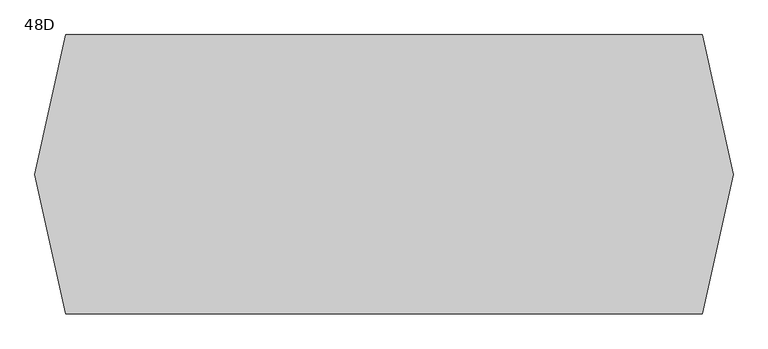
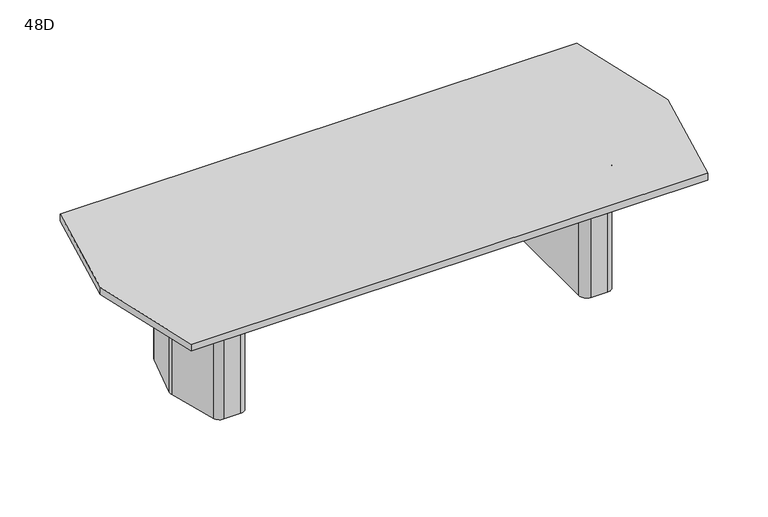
"""IFC4 building model written with IfcOpenShell, lengths in millimetres: furniture geometry, Coalesse_AM_Table_Conference_ETable2_Faceted_10ft_TwoBase : 48D."""

import ifcopenshell
import ifcopenshell.guid

model = None  # the IFC model being written
_history = None  # IfcOwnerHistory: only IFC2X3 demands one
_inside = {}  # id of a spatial element -> (the spatial element, [elements in it])
_under = {}  # id of a project, library or spatial element -> (it, [spatial elements below it])
_declared = {}  # id of a project -> (the project, [libraries it declares])
_typed = {}  # id of a type object -> (the type object, [elements of that type])
_made_of = {}  # id of a material, layer set ... -> (it, [elements and type objects made of it])


def new_model(schema):
    """Start an empty IFC model of exactly this schema.

    Asked for "IFC4X3", IfcOpenShell would pick the latest addendum, in which some entities
    have other attributes; the version numbers below select the first issue.
    IFC2X3 requires an IfcOwnerHistory on every rooted entity: one is made here for all.
    """
    global model, _history
    if schema == "IFC4X3":
        model = ifcopenshell.file(schema_version=(4, 3, 0, 0))
    else:
        model = ifcopenshell.file(schema=schema)
    _inside.clear()
    _under.clear()
    _declared.clear()
    _typed.clear()
    _made_of.clear()
    _history = None
    if model.schema == "IFC2X3":
        org = make("IfcOrganization", Name="unknown")
        user = make(
            "IfcPersonAndOrganization",
            ThePerson=make("IfcPerson", FamilyName="unknown"),
            TheOrganization=org,
        )
        app = make(
            "IfcApplication",
            ApplicationDeveloper=org,
            Version="unknown",
            ApplicationFullName="unknown",
            ApplicationIdentifier="unknown",
        )
        _history = make(
            "IfcOwnerHistory",
            OwningUser=user,
            OwningApplication=app,
            ChangeAction="ADDED",
            CreationDate=0,
        )
    return model


def make(cls, **values):
    """One entity of the class cls with the attributes given. An attribute that is None is left unset."""
    return model.create_entity(
        cls, **{name: value for name, value in values.items() if value is not None}
    )


def rooted(cls, **values):
    """An entity with a GlobalId (a new one), such as an element, a storey or a relation."""
    return make(cls, GlobalId=ifcopenshell.guid.new(), OwnerHistory=_history, **values)


def si_unit(unit_type, name, prefix=None):
    """IfcSIUnit, for example si_unit("LENGTHUNIT", "METRE", prefix="MILLI")."""
    return make("IfcSIUnit", UnitType=unit_type, Prefix=prefix, Name=name)


def assignment(units):
    """IfcUnitAssignment: the units of a project."""
    return None if units is None else make("IfcUnitAssignment", Units=units)


def point(xyz):
    """IfcCartesianPoint."""
    return None if xyz is None else make("IfcCartesianPoint", Coordinates=xyz)


def direction(xyz):
    """IfcDirection."""
    return None if xyz is None else make("IfcDirection", DirectionRatios=xyz)


def frame(location, z_axis=None, x_axis=None):
    """IfcAxis2Placement3D, a coordinate frame: its origin and axes. An axis left out is left unset."""
    return make(
        "IfcAxis2Placement3D",
        Location=point(location),
        Axis=direction(z_axis),
        RefDirection=direction(x_axis),
    )


def origin():
    """The frame at (0, 0, 0) with its axes left unset."""
    return frame((0.0, 0.0, 0.0))


def place(relative_to, where):
    """IfcLocalPlacement: puts the frame where relative to a parent placement (None: the world)."""
    return make(
        "IfcLocalPlacement", PlacementRelTo=relative_to, RelativePlacement=where
    )


def context(
    kind, dimensions, precision=None, world=None, true_north=None, identifier=None
):
    """IfcGeometricRepresentationContext, for example the 3D "Model" context."""
    return make(
        "IfcGeometricRepresentationContext",
        ContextIdentifier=identifier,
        ContextType=kind,
        CoordinateSpaceDimension=dimensions,
        Precision=precision,
        WorldCoordinateSystem=world,
        TrueNorth=true_north,
    )


def project(units=None, contexts=None):
    """IfcProject with its units and contexts."""
    return rooted(
        "IfcProject",
        Name="project",
        RepresentationContexts=contexts,
        UnitsInContext=assignment(units),
    )


def spatial(cls, under=None, at=None, **own):
    """A site, building, storey or space (cls), placed at a placement, below another one or the project."""
    s = rooted(cls, ObjectPlacement=at, **own)
    if under is not None:
        _under.setdefault(under.id(), (under, []))[1].append(s)
    return s


def polyline(points):
    """IfcPolyline through the points."""
    return make("IfcPolyline", Points=[point(p) for p in points])


def circle_curve(where, radius):
    """IfcCircle in the frame where."""
    return make("IfcCircle", Position=where, Radius=radius)


def outline(outer, holes=None, kind="AREA"):
    """IfcArbitraryClosedProfileDef: a profile drawn as a closed curve; with holes, ...WithVoids."""
    if holes is None:
        return make("IfcArbitraryClosedProfileDef", ProfileType=kind, OuterCurve=outer)
    return make(
        "IfcArbitraryProfileDefWithVoids",
        ProfileType=kind,
        OuterCurve=outer,
        InnerCurves=holes,
    )


def extrude(swept, where, along, depth):
    """IfcExtrudedAreaSolid: the profile swept, set in the frame where, extruded along a direction by depth."""
    return make(
        "IfcExtrudedAreaSolid",
        SweptArea=swept,
        Position=where,
        ExtrudedDirection=direction(along),
        Depth=depth,
    )


def shape(context_of_items, identifier, shape_type, items):
    """IfcShapeRepresentation: the items that make up one representation, for example the "Body"."""
    return make(
        "IfcShapeRepresentation",
        ContextOfItems=context_of_items,
        RepresentationIdentifier=identifier,
        RepresentationType=shape_type,
        Items=items,
    )


def source(mapping_origin, context_of_items, identifier, shape_type, items):
    """IfcRepresentationMap: a shape defined once, which mapped items show again and again."""
    return make(
        "IfcRepresentationMap",
        MappingOrigin=mapping_origin,
        MappedRepresentation=shape(context_of_items, identifier, shape_type, items),
    )


def transform(
    local_origin,
    x_axis=None,
    y_axis=None,
    z_axis=None,
    scale=None,
    scale2=None,
    scale3=None,
    uniform=True,
):
    """IfcCartesianTransformationOperator3D, or its non-uniform kind. x_axis, y_axis, z_axis: its Axis1, 2, 3."""
    if uniform:
        return make(
            "IfcCartesianTransformationOperator3D",
            Axis1=direction(x_axis),
            Axis2=direction(y_axis),
            LocalOrigin=point(local_origin),
            Scale=scale,
            Axis3=direction(z_axis),
        )
    return make(
        "IfcCartesianTransformationOperator3DnonUniform",
        Axis1=direction(x_axis),
        Axis2=direction(y_axis),
        LocalOrigin=point(local_origin),
        Scale=scale,
        Axis3=direction(z_axis),
        Scale2=scale2,
        Scale3=scale3,
    )


def mapped(mapping_source, mapping_target):
    """IfcMappedItem: shows the shape of a source again, moved by a transform."""
    return make(
        "IfcMappedItem", MappingSource=mapping_source, MappingTarget=mapping_target
    )


def made_of(thing, what):
    """Note that an element or type object is made of a material, layer set ...; save() writes the relation."""
    if what is not None:
        _made_of.setdefault(what.id(), (what, []))[1].append(thing)
    return thing


def element(
    cls,
    number,
    at=None,
    inside=None,
    cuts=None,
    type_object=None,
    material=None,
    context=None,
    identifier="Body",
    shape_type=None,
    held_by="IfcProductDefinitionShape",
    body=None,
    shapes=None,
    **own,
):
    """One element of the class cls, such as IfcWall. Its Tag is "e" and its number.

    at: its placement. inside: the storey or other place that contains it. cuts: it is an
    opening in that element (IfcRelVoidsElement). A single representation is given by context,
    identifier, shape_type and body (its items); several are given by shapes. held_by: the class
    of the entity that holds the representations. save() writes the other relations.
    """
    e = rooted(cls, Tag="e%d" % number, ObjectPlacement=at, **own)
    if body is not None:
        shapes = [shape(context, identifier, shape_type, body)]
    if shapes is not None:
        e.Representation = make(held_by, Representations=shapes)
    if inside is not None:
        _inside.setdefault(inside.id(), (inside, []))[1].append(e)
    if cuts is not None:
        rooted(
            "IfcRelVoidsElement", RelatingBuildingElement=cuts, RelatedOpeningElement=e
        )
    if type_object is not None:
        _typed.setdefault(type_object.id(), (type_object, []))[1].append(e)
    return made_of(e, material)


def aggregate(whole, parts):
    """IfcRelAggregates: a whole, such as a stair, and the parts it consists of."""
    return rooted("IfcRelAggregates", RelatingObject=whole, RelatedObjects=parts)


def save(model, path):
    """Write the relations noted so far, then the file.

    IfcRelAggregates (storeys below a building ...), IfcRelContainedInSpatialStructure (elements
    in a storey), IfcRelDefinesByType, IfcRelAssociatesMaterial and IfcRelDeclares: one each for
    every whole, place, type object, material and project.
    """
    for whole, parts in _under.values():
        aggregate(whole, parts)
    for where, things in _inside.values():
        rooted(
            "IfcRelContainedInSpatialStructure",
            RelatedElements=things,
            RelatingStructure=where,
        )
    for kind, things in _typed.values():
        rooted("IfcRelDefinesByType", RelatedObjects=things, RelatingType=kind)
    for what, things in _made_of.values():
        rooted("IfcRelAssociatesMaterial", RelatedObjects=things, RelatingMaterial=what)
    for by, libraries in _declared.values():
        rooted("IfcRelDeclares", RelatingContext=by, RelatedDefinitions=libraries)
    model.write(path)


def plane_surface(at):
    """IfcPlane: the flat surface through the origin of the frame at, square to its z axis."""
    return make("IfcPlane", Position=at)


def cylinder_surface(at, radius):
    """IfcCylindricalSurface: all points at the distance radius from the z axis of the frame at."""
    return make("IfcCylindricalSurface", Position=at, Radius=radius)


def revolved_surface(curve, axis_point, axis_direction):
    """IfcSurfaceOfRevolution: the curve turned about the line through axis_point along axis_direction."""
    return make(
        "IfcSurfaceOfRevolution",
        SweptCurve=make("IfcArbitraryOpenProfileDef", ProfileType="CURVE", Curve=curve),
        AxisPosition=make("IfcAxis1Placement", Location=point(axis_point), Axis=direction(axis_direction)),
    )


def advanced_brep(points, edges, surfaces, faces):
    """IfcAdvancedBrep: a solid bounded by faces that lie on surfaces and meet in shared edges.

    An edge is (start, end): straight between two places in points (the first is 0);
    or (start, end, curve); or (start, end, curve, False) where it runs against its curve.
    A face is (place in surfaces, loops), or (place, loops, False) where it looks against
    its surface's normal. A loop lists edges by number (the first is 1), with a minus sign
    where the edge is run from its end to its start. The first loop is the outer one.
    """
    corners = [point(p) for p in points]
    vertices = [make("IfcVertexPoint", VertexGeometry=c) for c in corners]
    made = []
    for start, end, *more in edges:
        made.append(
            make(
                "IfcEdgeCurve",
                EdgeStart=vertices[start],
                EdgeEnd=vertices[end],
                EdgeGeometry=more[0] if more else make("IfcPolyline", Points=[corners[start], corners[end]]),
                SameSense=more[1] if len(more) > 1 else True,
            )
        )
    hull = []
    for where, loops, *sense in faces:
        bounds = []
        for j, loop in enumerate(loops):
            ring = [make("IfcOrientedEdge", EdgeElement=made[abs(k) - 1], Orientation=k > 0) for k in loop]
            bounds.append(
                make(
                    "IfcFaceOuterBound" if j == 0 else "IfcFaceBound",
                    Bound=make("IfcEdgeLoop", EdgeList=ring),
                    Orientation=True,
                )
            )
        hull.append(make("IfcAdvancedFace", Bounds=bounds, FaceSurface=surfaces[where], SameSense=sense[0] if sense else True))
    return make("IfcAdvancedBrep", Outer=make("IfcClosedShell", CfsFaces=hull))


def furniture_48d_3833dcd1(model_context):
    return source(origin(), model_context, "Body", "SolidModel", [
        advanced_brep(
        [(1065.424548, 274.2093613, 698.5), (1025.5579246, 304.8, 698.5), (936.625, 304.8, 698.5), (895.35, 263.525, 698.5), (895.35, -263.525, 698.5), (936.625, -304.8, 698.5), (1025.5579246, -304.8, 698.5), (1065.424548, -274.2093613, 698.5), (1136.0503901, -10.6333708, 698.5), (1136.0503901, 10.6333708, 698.5), (933.45, -206.375, 698.5), (933.45, 206.375, 698.5), (958.85, 231.775, 698.5), (1017.8608422, 231.775, 698.5), (1042.395338, 212.9490792, 698.5), (1081.0875, 68.54974, 698.5), (1081.0875, -68.54974, 698.5), (1042.395338, -212.9490792, 698.5), (1017.8608422, -231.775, 698.5), (958.85, -231.775, 698.5), (1065.424548, 274.2093613, 3.175), (1136.0503901, 10.6333708, 3.175), (1136.0503901, -10.6333708, 3.175), (1065.424548, -274.2093613, 3.175), (1025.5579246, -304.8, 3.175), (936.625, -304.8, 3.175), (895.35, -263.525, 3.175), (895.35, 263.525, 3.175), (936.625, 304.8, 3.175), (1025.5579246, 304.8, 3.175), (1054.6625859, 216.2361187, 3.175), (1017.8608422, 244.475, 3.175), (958.85, 244.475, 3.175), (920.75, 206.375, 3.175), (920.75, -206.375, 3.175), (958.85, -244.475, 3.175), (1017.8608422, -244.475, 3.175), (1054.6625859, -216.2361187, 3.175), (1093.7875, -70.2217466, 3.175), (1093.7875, 70.2217466, 3.175), (958.85, -231.775, 3.175), (933.45, -206.375, 3.175), (1017.8608422, -231.775, 3.175), (1042.395338, -212.9490792, 3.175), (1081.0875, -68.54974, 3.175), (1081.0875, 68.54974, 3.175), (1042.395338, 212.9490792, 3.175), (1017.8608422, 231.775, 3.175), (958.85, 231.775, 3.175), (933.45, 206.375, 3.175), (1054.6625859, 216.2361187, 0.0), (1093.7875, 70.2217466, 0.0), (1093.7875, -70.2217466, 0.0), (1054.6625859, -216.2361187, 0.0), (1017.8608422, -244.475, 0.0), (958.85, -244.475, 0.0), (920.75, -206.375, 0.0), (920.75, 206.375, 0.0), (958.85, 244.475, 0.0), (1017.8608422, 244.475, 0.0)],
        [
            (0, 1, circle_curve(frame((1025.5579246, 263.5270004, 698.5), z_axis=(0.0, 0.0, 1.0), x_axis=(-1.0, 0.0, 0.0)), 41.2729996)),
            (1, 2),
            (2, 3, circle_curve(frame((936.625, 263.525, 698.5), z_axis=(0.0, 0.0, 1.0), x_axis=(-1.0, 0.0, 0.0)), 41.275)),
            (3, 4),
            (4, 5, circle_curve(frame((936.625, -263.525, 698.5), z_axis=(0.0, 0.0, 1.0), x_axis=(-1.0, 0.0, 0.0)), 41.275)),
            (5, 6),
            (6, 7, circle_curve(frame((1025.5579246, -263.5270004, 698.5), z_axis=(0.0, 0.0, 1.0), x_axis=(-1.0, 0.0, 0.0)), 41.2729996)),
            (7, 8),
            (8, 9, circle_curve(frame((1096.3665979, 0.0, 698.5), z_axis=(0.0, 0.0, 1.0), x_axis=(-1.0, 0.0, 0.0)), 41.0837187)),
            (9, 0),
            (10, 11),
            (11, 12, circle_curve(frame((958.85, 206.375, 698.5), z_axis=(0.0, 0.0, -1.0), x_axis=(-1.0, 0.0, 0.0)), 25.4)),
            (12, 13),
            (13, 14, circle_curve(frame((1017.8608422, 206.375, 698.5), z_axis=(0.0, 0.0, -1.0), x_axis=(-1.0, 0.0, 0.0)), 25.4)),
            (14, 15),
            (15, 16),
            (16, 17),
            (17, 18, circle_curve(frame((1017.8608422, -206.375, 698.5), z_axis=(0.0, 0.0, -1.0), x_axis=(-1.0, 0.0, 0.0)), 25.4)),
            (18, 19),
            (19, 10, circle_curve(frame((958.85, -206.375, 698.5), z_axis=(0.0, 0.0, -1.0), x_axis=(-1.0, 0.0, 0.0)), 25.4)),
            (20, 21),
            (21, 22, circle_curve(frame((1096.3665979, 0.0, 3.175), z_axis=(0.0, 0.0, -1.0), x_axis=(-1.0, 0.0, 0.0)), 41.0837187)),
            (22, 23),
            (23, 24, circle_curve(frame((1025.5579246, -263.5270004, 3.175), z_axis=(0.0, 0.0, -1.0), x_axis=(-1.0, 0.0, 0.0)), 41.2729996)),
            (24, 25),
            (25, 26, circle_curve(frame((936.625, -263.525, 3.175), z_axis=(0.0, 0.0, -1.0), x_axis=(-1.0, 0.0, 0.0)), 41.275)),
            (26, 27),
            (27, 28, circle_curve(frame((936.625, 263.525, 3.175), z_axis=(0.0, 0.0, -1.0), x_axis=(-1.0, 0.0, 0.0)), 41.275)),
            (28, 29),
            (29, 20, circle_curve(frame((1025.5579246, 263.5270004, 3.175), z_axis=(0.0, 0.0, -1.0), x_axis=(-1.0, 0.0, 0.0)), 41.2729996)),
            (30, 31, circle_curve(frame((1017.8608422, 206.375, 3.175), z_axis=(0.0, 0.0, 1.0), x_axis=(-1.0, 0.0, 0.0)), 38.1)),
            (31, 32),
            (32, 33, circle_curve(frame((958.85, 206.375, 3.175), z_axis=(0.0, 0.0, 1.0), x_axis=(-1.0, 0.0, 0.0)), 38.1)),
            (33, 34),
            (34, 35, circle_curve(frame((958.85, -206.375, 3.175), z_axis=(0.0, 0.0, 1.0), x_axis=(-1.0, 0.0, 0.0)), 38.1)),
            (35, 36),
            (36, 37, circle_curve(frame((1017.8608422, -206.375, 3.175), z_axis=(0.0, 0.0, 1.0), x_axis=(-1.0, 0.0, 0.0)), 38.1)),
            (37, 38),
            (38, 39),
            (39, 30),
            (9, 21),
            (20, 0),
            (8, 22),
            (7, 23),
            (6, 24),
            (5, 25),
            (4, 26),
            (3, 27),
            (2, 28),
            (1, 29),
            (19, 40),
            (40, 41, circle_curve(frame((958.85, -206.375, 3.175), z_axis=(0.0, 0.0, -1.0), x_axis=(-1.0, 0.0, 0.0)), 25.4)),
            (41, 10),
            (18, 42),
            (42, 40),
            (17, 43),
            (43, 42, circle_curve(frame((1017.8608422, -206.375, 3.175), z_axis=(0.0, 0.0, -1.0), x_axis=(-1.0, 0.0, 0.0)), 25.4)),
            (16, 44),
            (44, 43),
            (15, 45),
            (45, 44),
            (14, 46),
            (46, 45),
            (13, 47),
            (47, 46, circle_curve(frame((1017.8608422, 206.375, 3.175), z_axis=(0.0, 0.0, -1.0), x_axis=(-1.0, 0.0, 0.0)), 25.4)),
            (12, 48),
            (48, 47),
            (11, 49),
            (49, 48, circle_curve(frame((958.85, 206.375, 3.175), z_axis=(0.0, 0.0, -1.0), x_axis=(-1.0, 0.0, 0.0)), 25.4)),
            (41, 49),
            (50, 51),
            (51, 52),
            (52, 53),
            (53, 54, circle_curve(frame((1017.8608422, -206.375, 0.0), z_axis=(0.0, 0.0, -1.0), x_axis=(-1.0, 0.0, 0.0)), 38.1)),
            (54, 55),
            (55, 56, circle_curve(frame((958.85, -206.375, 0.0), z_axis=(0.0, 0.0, -1.0), x_axis=(-1.0, 0.0, 0.0)), 38.1)),
            (56, 57),
            (57, 58, circle_curve(frame((958.85, 206.375, 0.0), z_axis=(0.0, 0.0, -1.0), x_axis=(-1.0, 0.0, 0.0)), 38.1)),
            (58, 59),
            (59, 50, circle_curve(frame((1017.8608422, 206.375, 0.0), z_axis=(0.0, 0.0, -1.0), x_axis=(-1.0, 0.0, 0.0)), 38.1)),
            (50, 30),
            (39, 51),
            (38, 52),
            (37, 53),
            (36, 54),
            (35, 55),
            (34, 56),
            (33, 57),
            (32, 58),
            (31, 59),
        ],
        [
            plane_surface(frame((1136.0374275, 10.6817473, 698.5), z_axis=(0.0, 0.0, 1.0000000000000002), x_axis=(0.25882201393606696, -0.9659250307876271, 0.0))),
            plane_surface(frame((1136.0374275, 10.6817473, 3.175), z_axis=(0.0, 0.0, -1.0000000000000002), x_axis=(-0.25882201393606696, 0.9659250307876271, 0.0))),
            plane_surface(frame((1065.424548, 274.2093613, 698.5), z_axis=(0.9659250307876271, 0.25882201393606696, 0.0), x_axis=(0.0, 0.0, -1.0))),
            cylinder_surface(frame((1096.3665979, 0.0, 3.175), z_axis=(0.0, 0.0, 1.0), x_axis=(-1.0, 0.0, 0.0)), 41.0837187),
            plane_surface(frame((1136.0503901, -10.6333708, 698.5), z_axis=(0.9659250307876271, -0.2588220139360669, 0.0), x_axis=(0.0, 0.0, -1.0))),
            cylinder_surface(frame((1025.5579246, -263.5270004, 3.175), z_axis=(0.0, 0.0, 1.0), x_axis=(-1.0, 0.0, 0.0)), 41.2729996),
            plane_surface(frame((1025.5579246, -304.8, 698.5), z_axis=(0.0, -1.0, 0.0), x_axis=(0.0, 0.0, -1.0))),
            cylinder_surface(frame((936.625, -263.525, 3.175), z_axis=(0.0, 0.0, 1.0), x_axis=(-1.0, 0.0, 0.0)), 41.275),
            plane_surface(frame((895.35, -263.525, 698.5), z_axis=(-1.0, 0.0, 0.0), x_axis=(0.0, 0.0, -1.0))),
            cylinder_surface(frame((936.625, 263.525, 3.175), z_axis=(0.0, 0.0, 1.0), x_axis=(-1.0, 0.0, 0.0)), 41.275),
            plane_surface(frame((936.625, 304.8, 698.5), z_axis=(0.0, 1.0, 0.0), x_axis=(0.0, 0.0, -1.0))),
            cylinder_surface(frame((1025.5579246, 263.5270004, 3.175), z_axis=(0.0, 0.0, 1.0), x_axis=(-1.0, 0.0, 0.0)), 41.2729996),
            revolved_surface(polyline([(933.45, -206.375, 3.175), (933.45, -206.375, 698.5)]), (958.85, -206.375, 0.0), (0.0, 0.0, -1.0)),
            plane_surface(frame((958.85, -231.775, 698.5), z_axis=(0.0, 1.0, 0.0), x_axis=(0.0, 0.0, -1.0))),
            revolved_surface(polyline([(992.4608422, -206.375, 3.175), (992.4608422, -206.375, 698.5)]), (1017.8608422, -206.375, 0.0), (0.0, 0.0, -1.0)),
            plane_surface(frame((1042.395338, -212.9490792, 698.5), z_axis=(-0.9659250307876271, 0.2588220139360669, 0.0), x_axis=(0.0, 0.0, -1.0))),
            plane_surface(frame((1081.0875, -68.54974, 698.5), z_axis=(-1.0, 0.0, 0.0), x_axis=(0.0, 0.0, -1.0))),
            plane_surface(frame((1081.0875, 68.54974, 698.5), z_axis=(-0.9659250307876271, -0.25882201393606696, 0.0), x_axis=(0.0, 0.0, -1.0))),
            revolved_surface(polyline([(992.4608422, 206.375, 3.175), (992.4608422, 206.375, 698.5)]), (1017.8608422, 206.375, 0.0), (0.0, 0.0, -1.0)),
            plane_surface(frame((1017.8608422, 231.775, 698.5), z_axis=(0.0, -1.0, 0.0), x_axis=(0.0, 0.0, -1.0))),
            revolved_surface(polyline([(933.45, 206.375, 3.175), (933.45, 206.375, 698.5)]), (958.85, 206.375, 0.0), (0.0, 0.0, -1.0)),
            plane_surface(frame((933.45, 206.375, 698.5), z_axis=(1.0, 0.0, 0.0), x_axis=(0.0, 0.0, -1.0))),
            plane_surface(frame((1093.3547479, 71.8367796, 3.175), z_axis=(0.0, 0.0, 1.0), x_axis=(0.25882201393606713, -0.965925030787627, 0.0))),
            plane_surface(frame((1093.3547479, 71.8367796, 0.0), z_axis=(0.0, 0.0, -1.0), x_axis=(-0.25882201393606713, 0.965925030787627, 0.0))),
            plane_surface(frame((1054.6625859, 216.2361187, 3.175), z_axis=(0.965925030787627, 0.25882201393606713, 0.0), x_axis=(0.0, 0.0, -1.0))),
            plane_surface(frame((1093.7875, 70.2217466, 3.175), z_axis=(1.0, 0.0, 0.0), x_axis=(0.0, 0.0, -1.0))),
            plane_surface(frame((1093.7875, -70.2217466, 3.175), z_axis=(0.9659250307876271, -0.2588220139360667, 0.0), x_axis=(0.0, 0.0, -1.0))),
            cylinder_surface(frame((1017.8608422, -206.375, 0.0), z_axis=(0.0, 0.0, 1.0), x_axis=(-1.0, 0.0, 0.0)), 38.1),
            plane_surface(frame((1017.8608422, -244.475, 3.175), z_axis=(0.0, -1.0, 0.0), x_axis=(0.0, 0.0, -1.0))),
            cylinder_surface(frame((958.85, -206.375, 0.0), z_axis=(0.0, 0.0, 1.0), x_axis=(-1.0, 0.0, 0.0)), 38.1),
            plane_surface(frame((920.75, -206.375, 3.175), z_axis=(-1.0, 0.0, 0.0), x_axis=(0.0, 0.0, -1.0))),
            cylinder_surface(frame((958.85, 206.375, 0.0), z_axis=(0.0, 0.0, 1.0), x_axis=(-1.0, 0.0, 0.0)), 38.1),
            plane_surface(frame((958.85, 244.475, 3.175), z_axis=(0.0, 1.0, 0.0), x_axis=(0.0, 0.0, -1.0))),
            cylinder_surface(frame((1017.8608422, 206.375, 0.0), z_axis=(0.0, 0.0, 1.0), x_axis=(-1.0, 0.0, 0.0)), 38.1),
        ],
        [
            (0, [[1, 2, 3, 4, 5, 6, 7, 8, 9, 10], [11, 12, 13, 14, 15, 16, 17, 18, 19, 20]]),
            (1, [[21, 22, 23, 24, 25, 26, 27, 28, 29, 30], [31, 32, 33, 34, 35, 36, 37, 38, 39, 40]]),
            (2, [[41, -21, 42, -10]]),
            (3, [[43, -22, -41, -9]]),
            (4, [[44, -23, -43, -8]]),
            (5, [[45, -24, -44, -7]]),
            (6, [[46, -25, -45, -6]]),
            (7, [[47, -26, -46, -5]]),
            (8, [[48, -27, -47, -4]]),
            (9, [[49, -28, -48, -3]]),
            (10, [[50, -29, -49, -2]]),
            (11, [[-42, -30, -50, -1]]),
            (12, [[51, 52, 53, -20]]),
            (13, [[54, 55, -51, -19]]),
            (14, [[56, 57, -54, -18]]),
            (15, [[58, 59, -56, -17]]),
            (16, [[60, 61, -58, -16]]),
            (17, [[62, 63, -60, -15]]),
            (18, [[64, 65, -62, -14]]),
            (19, [[66, 67, -64, -13]]),
            (20, [[68, 69, -66, -12]]),
            (21, [[-53, 70, -68, -11]]),
            (22, [[-55, -57, -59, -61, -63, -65, -67, -69, -70, -52]]),
            (23, [[71, 72, 73, 74, 75, 76, 77, 78, 79, 80]]),
            (24, [[81, -40, 82, -71]]),
            (25, [[-82, -39, 83, -72]]),
            (26, [[-83, -38, 84, -73]]),
            (27, [[-84, -37, 85, -74]]),
            (28, [[-85, -36, 86, -75]]),
            (29, [[-86, -35, 87, -76]]),
            (30, [[-87, -34, 88, -77]]),
            (31, [[-88, -33, 89, -78]]),
            (32, [[-89, -32, 90, -79]]),
            (33, [[-90, -31, -81, -80]]),
        ],
    ),
        advanced_brep(
        [(-1076.537048, 274.2093613, 698.5), (-1147.1628901, 10.6333708, 698.5), (-1147.1628901, -10.6333708, 698.5), (-1076.537048, -274.2093613, 698.5), (-1036.6704246, -304.8, 698.5), (-947.7375, -304.8, 698.5), (-906.4625, -263.525, 698.5), (-906.4625, 263.525, 698.5), (-947.7375, 304.8, 698.5), (-1036.6704246, 304.8, 698.5), (-944.5625, -206.375, 698.5), (-969.9625, -231.775, 698.5), (-1028.9733422, -231.775, 698.5), (-1053.507838, -212.9490792, 698.5), (-1092.2, -68.54974, 698.5), (-1092.2, 68.54974, 698.5), (-1053.507838, 212.9490792, 698.5), (-1028.9733422, 231.775, 698.5), (-969.9625, 231.775, 698.5), (-944.5625, 206.375, 698.5), (-1076.537048, 274.2093613, 3.175), (-1036.6704246, 304.8, 3.175), (-947.7375, 304.8, 3.175), (-906.4625, 263.525, 3.175), (-906.4625, -263.525, 3.175), (-947.7375, -304.8, 3.175), (-1036.6704246, -304.8, 3.175), (-1076.537048, -274.2093613, 3.175), (-1147.1628901, -10.6333708, 3.175), (-1147.1628901, 10.6333708, 3.175), (-1065.7750859, 216.2361187, 3.175), (-1104.9, 70.2217466, 3.175), (-1104.9, -70.2217466, 3.175), (-1065.7750859, -216.2361187, 3.175), (-1028.9733422, -244.475, 3.175), (-969.9625, -244.475, 3.175), (-931.8625, -206.375, 3.175), (-931.8625, 206.375, 3.175), (-969.9625, 244.475, 3.175), (-1028.9733422, 244.475, 3.175), (-944.5625, -206.375, 3.175), (-969.9625, -231.775, 3.175), (-1028.9733422, -231.775, 3.175), (-1053.507838, -212.9490792, 3.175), (-1092.2, -68.54974, 3.175), (-1092.2, 68.54974, 3.175), (-1053.507838, 212.9490792, 3.175), (-1028.9733422, 231.775, 3.175), (-969.9625, 231.775, 3.175), (-944.5625, 206.375, 3.175), (-1065.7750859, 216.2361187, 0.0), (-1028.9733422, 244.475, 0.0), (-969.9625, 244.475, 0.0), (-931.8625, 206.375, 0.0), (-931.8625, -206.375, 0.0), (-969.9625, -244.475, 0.0), (-1028.9733422, -244.475, 0.0), (-1065.7750859, -216.2361187, 0.0), (-1104.9, -70.2217466, 0.0), (-1104.9, 70.2217466, 0.0)],
        [
            (0, 1),
            (1, 2, circle_curve(frame((-1107.4790979, 0.0, 698.5), z_axis=(0.0, 0.0, 1.0), x_axis=(1.0, 0.0, 0.0)), 41.0837187)),
            (2, 3),
            (3, 4, circle_curve(frame((-1036.6704246, -263.5270004, 698.5), z_axis=(0.0, 0.0, 1.0), x_axis=(1.0, 0.0, 0.0)), 41.2729996)),
            (4, 5),
            (5, 6, circle_curve(frame((-947.7375, -263.525, 698.5), z_axis=(0.0, 0.0, 1.0), x_axis=(1.0, 0.0, 0.0)), 41.275)),
            (6, 7),
            (7, 8, circle_curve(frame((-947.7375, 263.525, 698.5), z_axis=(0.0, 0.0, 1.0), x_axis=(1.0, 0.0, 0.0)), 41.275)),
            (8, 9),
            (9, 0, circle_curve(frame((-1036.6704246, 263.5270004, 698.5), z_axis=(0.0, 0.0, 1.0), x_axis=(1.0, 0.0, 0.0)), 41.2729996)),
            (10, 11, circle_curve(frame((-969.9625, -206.375, 698.5), z_axis=(0.0, 0.0, -1.0), x_axis=(1.0, 0.0, 0.0)), 25.4)),
            (11, 12),
            (12, 13, circle_curve(frame((-1028.9733422, -206.375, 698.5), z_axis=(0.0, 0.0, -1.0), x_axis=(1.0, 0.0, 0.0)), 25.4)),
            (13, 14),
            (14, 15),
            (15, 16),
            (16, 17, circle_curve(frame((-1028.9733422, 206.375, 698.5), z_axis=(0.0, 0.0, -1.0), x_axis=(1.0, 0.0, 0.0)), 25.4)),
            (17, 18),
            (18, 19, circle_curve(frame((-969.9625, 206.375, 698.5), z_axis=(0.0, 0.0, -1.0), x_axis=(1.0, 0.0, 0.0)), 25.4)),
            (19, 10),
            (20, 21, circle_curve(frame((-1036.6704246, 263.5270004, 3.175), z_axis=(0.0, 0.0, -1.0), x_axis=(1.0, 0.0, 0.0)), 41.2729996)),
            (21, 22),
            (22, 23, circle_curve(frame((-947.7375, 263.525, 3.175), z_axis=(0.0, 0.0, -1.0), x_axis=(1.0, 0.0, 0.0)), 41.275)),
            (23, 24),
            (24, 25, circle_curve(frame((-947.7375, -263.525, 3.175), z_axis=(0.0, 0.0, -1.0), x_axis=(1.0, 0.0, 0.0)), 41.275)),
            (25, 26),
            (26, 27, circle_curve(frame((-1036.6704246, -263.5270004, 3.175), z_axis=(0.0, 0.0, -1.0), x_axis=(1.0, 0.0, 0.0)), 41.2729996)),
            (27, 28),
            (28, 29, circle_curve(frame((-1107.4790979, 0.0, 3.175), z_axis=(0.0, 0.0, -1.0), x_axis=(1.0, 0.0, 0.0)), 41.0837187)),
            (29, 20),
            (30, 31),
            (31, 32),
            (32, 33),
            (33, 34, circle_curve(frame((-1028.9733422, -206.375, 3.175), z_axis=(0.0, 0.0, 1.0), x_axis=(1.0, 0.0, 0.0)), 38.1)),
            (34, 35),
            (35, 36, circle_curve(frame((-969.9625, -206.375, 3.175), z_axis=(0.0, 0.0, 1.0), x_axis=(1.0, 0.0, 0.0)), 38.1)),
            (36, 37),
            (37, 38, circle_curve(frame((-969.9625, 206.375, 3.175), z_axis=(0.0, 0.0, 1.0), x_axis=(1.0, 0.0, 0.0)), 38.1)),
            (38, 39),
            (39, 30, circle_curve(frame((-1028.9733422, 206.375, 3.175), z_axis=(0.0, 0.0, 1.0), x_axis=(1.0, 0.0, 0.0)), 38.1)),
            (0, 20),
            (29, 1),
            (28, 2),
            (27, 3),
            (26, 4),
            (25, 5),
            (24, 6),
            (23, 7),
            (22, 8),
            (21, 9),
            (10, 40),
            (40, 41, circle_curve(frame((-969.9625, -206.375, 3.175), z_axis=(0.0, 0.0, -1.0), x_axis=(1.0, 0.0, 0.0)), 25.4)),
            (41, 11),
            (41, 42),
            (42, 12),
            (42, 43, circle_curve(frame((-1028.9733422, -206.375, 3.175), z_axis=(0.0, 0.0, -1.0), x_axis=(1.0, 0.0, 0.0)), 25.4)),
            (43, 13),
            (43, 44),
            (44, 14),
            (44, 45),
            (45, 15),
            (45, 46),
            (46, 16),
            (46, 47, circle_curve(frame((-1028.9733422, 206.375, 3.175), z_axis=(0.0, 0.0, -1.0), x_axis=(1.0, 0.0, 0.0)), 25.4)),
            (47, 17),
            (47, 48),
            (48, 18),
            (48, 49, circle_curve(frame((-969.9625, 206.375, 3.175), z_axis=(0.0, 0.0, -1.0), x_axis=(1.0, 0.0, 0.0)), 25.4)),
            (49, 19),
            (49, 40),
            (50, 51, circle_curve(frame((-1028.9733422, 206.375, 0.0), z_axis=(0.0, 0.0, -1.0), x_axis=(1.0, 0.0, 0.0)), 38.1)),
            (51, 52),
            (52, 53, circle_curve(frame((-969.9625, 206.375, 0.0), z_axis=(0.0, 0.0, -1.0), x_axis=(1.0, 0.0, 0.0)), 38.1)),
            (53, 54),
            (54, 55, circle_curve(frame((-969.9625, -206.375, 0.0), z_axis=(0.0, 0.0, -1.0), x_axis=(1.0, 0.0, 0.0)), 38.1)),
            (55, 56),
            (56, 57, circle_curve(frame((-1028.9733422, -206.375, 0.0), z_axis=(0.0, 0.0, -1.0), x_axis=(1.0, 0.0, 0.0)), 38.1)),
            (57, 58),
            (58, 59),
            (59, 50),
            (59, 31),
            (30, 50),
            (58, 32),
            (57, 33),
            (56, 34),
            (55, 35),
            (54, 36),
            (53, 37),
            (52, 38),
            (51, 39),
        ],
        [
            plane_surface(frame((-1147.1499275, 10.6817473, 698.5), z_axis=(0.0, 0.0, 1.0000000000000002), x_axis=(-0.25882201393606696, -0.9659250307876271, 0.0))),
            plane_surface(frame((-1147.1499275, 10.6817473, 3.175), z_axis=(0.0, 0.0, -1.0000000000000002), x_axis=(0.25882201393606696, 0.9659250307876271, 0.0))),
            plane_surface(frame((-1076.537048, 274.2093613, 698.5), z_axis=(-0.9659250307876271, 0.25882201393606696, 0.0), x_axis=(0.0, 0.0, -1.0))),
            cylinder_surface(frame((-1107.4790979, 0.0, 3.175), z_axis=(0.0, 0.0, 1.0), x_axis=(1.0, 0.0, 0.0)), 41.0837187),
            plane_surface(frame((-1147.1628901, -10.6333708, 698.5), z_axis=(-0.9659250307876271, -0.2588220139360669, 0.0), x_axis=(0.0, 0.0, -1.0))),
            cylinder_surface(frame((-1036.6704246, -263.5270004, 3.175), z_axis=(0.0, 0.0, 1.0), x_axis=(1.0, 0.0, 0.0)), 41.2729996),
            plane_surface(frame((-1036.6704246, -304.8, 698.5), z_axis=(0.0, -1.0, 0.0), x_axis=(0.0, 0.0, -1.0))),
            cylinder_surface(frame((-947.7375, -263.525, 3.175), z_axis=(0.0, 0.0, 1.0), x_axis=(1.0, 0.0, 0.0)), 41.275),
            plane_surface(frame((-906.4625, -263.525, 698.5), z_axis=(1.0, 0.0, 0.0), x_axis=(0.0, 0.0, -1.0))),
            cylinder_surface(frame((-947.7375, 263.525, 3.175), z_axis=(0.0, 0.0, 1.0), x_axis=(1.0, 0.0, 0.0)), 41.275),
            plane_surface(frame((-947.7375, 304.8, 698.5), z_axis=(0.0, 1.0, 0.0), x_axis=(0.0, 0.0, -1.0))),
            cylinder_surface(frame((-1036.6704246, 263.5270004, 3.175), z_axis=(0.0, 0.0, 1.0), x_axis=(1.0, 0.0, 0.0)), 41.2729996),
            revolved_surface(polyline([(-944.5625, -206.375, 3.175), (-944.5625, -206.375, 698.5)]), (-969.9625, -206.375, 0.0), (0.0, 0.0, -1.0)),
            plane_surface(frame((-969.9625, -231.775, 698.5), z_axis=(0.0, 1.0, 0.0), x_axis=(0.0, 0.0, -1.0))),
            revolved_surface(polyline([(-1003.5733422, -206.375, 3.175), (-1003.5733422, -206.375, 698.5)]), (-1028.9733422, -206.375, 0.0), (0.0, 0.0, -1.0)),
            plane_surface(frame((-1053.507838, -212.9490792, 698.5), z_axis=(0.9659250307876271, 0.2588220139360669, 0.0), x_axis=(0.0, 0.0, -1.0))),
            plane_surface(frame((-1092.2, -68.54974, 698.5), z_axis=(1.0, 0.0, 0.0), x_axis=(0.0, 0.0, -1.0))),
            plane_surface(frame((-1092.2, 68.54974, 698.5), z_axis=(0.9659250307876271, -0.25882201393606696, 0.0), x_axis=(0.0, 0.0, -1.0))),
            revolved_surface(polyline([(-1003.5733422, 206.375, 3.175), (-1003.5733422, 206.375, 698.5)]), (-1028.9733422, 206.375, 0.0), (0.0, 0.0, -1.0)),
            plane_surface(frame((-1028.9733422, 231.775, 698.5), z_axis=(0.0, -1.0, 0.0), x_axis=(0.0, 0.0, -1.0))),
            revolved_surface(polyline([(-944.5625, 206.375, 3.175), (-944.5625, 206.375, 698.5)]), (-969.9625, 206.375, 0.0), (0.0, 0.0, -1.0)),
            plane_surface(frame((-944.5625, 206.375, 698.5), z_axis=(-1.0, 0.0, 0.0), x_axis=(0.0, 0.0, -1.0))),
            plane_surface(frame((-1104.4672479, 71.8367796, 3.175), z_axis=(0.0, 0.0, 1.0), x_axis=(-0.25882201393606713, -0.965925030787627, 0.0))),
            plane_surface(frame((-1104.4672479, 71.8367796, 0.0), z_axis=(0.0, 0.0, -1.0), x_axis=(0.25882201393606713, 0.965925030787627, 0.0))),
            plane_surface(frame((-1065.7750859, 216.2361187, 3.175), z_axis=(-0.965925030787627, 0.25882201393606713, 0.0), x_axis=(0.0, 0.0, -1.0))),
            plane_surface(frame((-1104.9, 70.2217466, 3.175), z_axis=(-1.0, 0.0, 0.0), x_axis=(0.0, 0.0, -1.0))),
            plane_surface(frame((-1104.9, -70.2217466, 3.175), z_axis=(-0.9659250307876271, -0.2588220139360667, 0.0), x_axis=(0.0, 0.0, -1.0))),
            cylinder_surface(frame((-1028.9733422, -206.375, 0.0), z_axis=(0.0, 0.0, 1.0), x_axis=(1.0, 0.0, 0.0)), 38.1),
            plane_surface(frame((-1028.9733422, -244.475, 3.175), z_axis=(0.0, -1.0, 0.0), x_axis=(0.0, 0.0, -1.0))),
            cylinder_surface(frame((-969.9625, -206.375, 0.0), z_axis=(0.0, 0.0, 1.0), x_axis=(1.0, 0.0, 0.0)), 38.1),
            plane_surface(frame((-931.8625, -206.375, 3.175), z_axis=(1.0, 0.0, 0.0), x_axis=(0.0, 0.0, -1.0))),
            cylinder_surface(frame((-969.9625, 206.375, 0.0), z_axis=(0.0, 0.0, 1.0), x_axis=(1.0, 0.0, 0.0)), 38.1),
            plane_surface(frame((-969.9625, 244.475, 3.175), z_axis=(0.0, 1.0, 0.0), x_axis=(0.0, 0.0, -1.0))),
            cylinder_surface(frame((-1028.9733422, 206.375, 0.0), z_axis=(0.0, 0.0, 1.0), x_axis=(1.0, 0.0, 0.0)), 38.1),
        ],
        [
            (0, [[1, 2, 3, 4, 5, 6, 7, 8, 9, 10], [11, 12, 13, 14, 15, 16, 17, 18, 19, 20]]),
            (1, [[21, 22, 23, 24, 25, 26, 27, 28, 29, 30], [31, 32, 33, 34, 35, 36, 37, 38, 39, 40]]),
            (2, [[-1, 41, -30, 42]]),
            (3, [[-2, -42, -29, 43]]),
            (4, [[-3, -43, -28, 44]]),
            (5, [[-4, -44, -27, 45]]),
            (6, [[-5, -45, -26, 46]]),
            (7, [[-6, -46, -25, 47]]),
            (8, [[-7, -47, -24, 48]]),
            (9, [[-8, -48, -23, 49]]),
            (10, [[-9, -49, -22, 50]]),
            (11, [[-10, -50, -21, -41]]),
            (12, [[-11, 51, 52, 53]]),
            (13, [[-12, -53, 54, 55]]),
            (14, [[-13, -55, 56, 57]]),
            (15, [[-14, -57, 58, 59]]),
            (16, [[-15, -59, 60, 61]]),
            (17, [[-16, -61, 62, 63]]),
            (18, [[-17, -63, 64, 65]]),
            (19, [[-18, -65, 66, 67]]),
            (20, [[-19, -67, 68, 69]]),
            (21, [[-20, -69, 70, -51]]),
            (22, [[-52, -70, -68, -66, -64, -62, -60, -58, -56, -54]]),
            (23, [[71, 72, 73, 74, 75, 76, 77, 78, 79, 80]]),
            (24, [[-80, 81, -31, 82]]),
            (25, [[-79, 83, -32, -81]]),
            (26, [[-78, 84, -33, -83]]),
            (27, [[-77, 85, -34, -84]]),
            (28, [[-76, 86, -35, -85]]),
            (29, [[-75, 87, -36, -86]]),
            (30, [[-74, 88, -37, -87]]),
            (31, [[-73, 89, -38, -88]]),
            (32, [[-72, 90, -39, -89]]),
            (33, [[-71, -82, -40, -90]]),
        ],
    ),
        extrude(outline(polyline([(-1524.0, 0.0), (-1388.8541794, 609.6), (1388.8541794, 609.6), (1524.0, 0.0), (1388.8541794, -609.6), (-1388.8541794, -609.6), (-1524.0, 0.0)])), frame((0.0, 0.0, 698.5), z_axis=(0.0, 0.0, 1.0), x_axis=(1.0, 0.0, 0.0)), (0.0, 0.0, 1.0), 38.1),
        extrude(outline(polyline([(96.8375, 698.5), (103.1875, 698.5), (103.1875, 476.25), (-103.1875, 476.25), (-103.1875, 698.5), (-96.8375, 698.5), (-96.8375, 482.6), (96.8375, 482.6), (96.8375, 698.5)])), frame((-906.4625, 0.0, 0.0), z_axis=(1.0, 0.0, 0.0), x_axis=(0.0, 1.0, 0.0)), (0.0, 0.0, 1.0), 1801.8125),
    ])


if __name__ == "__main__":
    model = new_model("IFC4")
    model_context = context("Model", 3, world=origin())
    ifc_project = project(units=[si_unit("LENGTHUNIT", "METRE", prefix="MILLI")], contexts=[model_context])
    site = spatial("IfcSite", under=ifc_project)
    building = spatial("IfcBuilding", under=site)
    placement = place(None, origin())
    furniture_48d_shape = furniture_48d_3833dcd1(model_context)
    element("IfcFurniture", 1, ObjectType="Coalesse_AM_Table_Conference_ETable2_Faceted_10ft_TwoBase : 48D", at=placement, inside=building, context=model_context, shape_type="MappedRepresentation", body=[
        mapped(furniture_48d_shape, transform((0.0, 0.0, 0.0), x_axis=(1.0, 0.0, 0.0), y_axis=(0.0, 1.0, 0.0), z_axis=(0.0, 0.0, 1.0))),
    ])
    save(model, "model.ifc")
